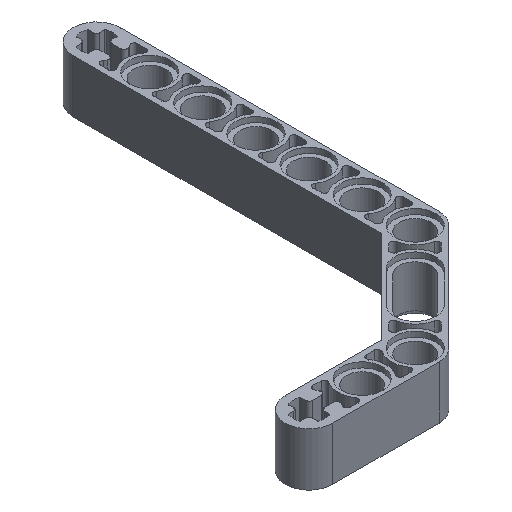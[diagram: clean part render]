
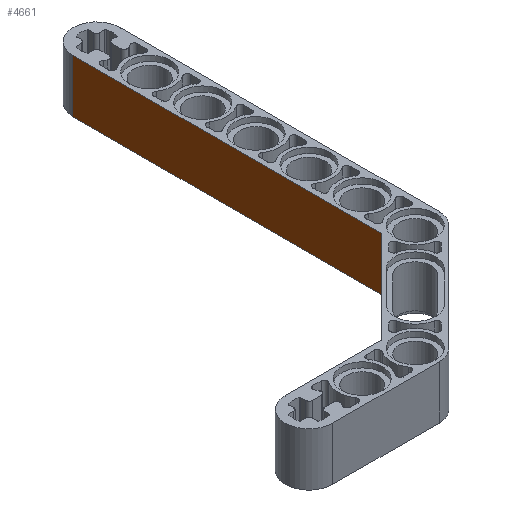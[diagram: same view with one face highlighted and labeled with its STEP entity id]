
A CAD part, isometric view. The second image highlights one B-rep face of the part: STEP entity #4661.
In plain terms, the highlighted planar face has unit normal (-1, 0, 0).
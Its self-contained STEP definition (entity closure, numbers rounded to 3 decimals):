
#50=PLANE('',#5212);
#231=LINE('',#7574,#573);
#262=LINE('',#7779,#604);
#299=LINE('',#7974,#641);
#300=LINE('',#7976,#642);
#573=VECTOR('',#6012,1000.);
#604=VECTOR('',#6187,1000.);
#641=VECTOR('',#6360,1000.);
#642=VECTOR('',#6363,1000.);
#1452=ORIENTED_EDGE('',*,*,#2529,.F.);
#1453=ORIENTED_EDGE('',*,*,#2627,.F.);
#1454=ORIENTED_EDGE('',*,*,#2427,.T.);
#1455=ORIENTED_EDGE('',*,*,#2628,.T.);
#2427=EDGE_CURVE('',#3054,#3053,#231,.T.);
#2529=EDGE_CURVE('',#3155,#3156,#262,.T.);
#2627=EDGE_CURVE('',#3054,#3155,#299,.T.);
#2628=EDGE_CURVE('',#3053,#3156,#300,.T.);
#3053=VERTEX_POINT('',#7573);
#3054=VERTEX_POINT('',#7575);
#3155=VERTEX_POINT('',#7778);
#3156=VERTEX_POINT('',#7780);
#3817=EDGE_LOOP('',(#1452,#1453,#1454,#1455));
#4171=FACE_BOUND('',#3817,.T.);
#4661=ADVANCED_FACE('',(#4171),#50,.T.);
#5212=AXIS2_PLACEMENT_3D('',#7975,#6361,#6362);
#6012=DIRECTION('',(0.,1.,0.));
#6187=DIRECTION('',(0.,1.,0.));
#6360=DIRECTION('',(0.,0.,-1.));
#6361=DIRECTION('',(-1.,0.,0.));
#6362=DIRECTION('',(0.,0.,1.));
#6363=DIRECTION('',(0.,0.,-1.));
#7573=CARTESIAN_POINT('',(27.859,64.,8.));
#7574=CARTESIAN_POINT('',(27.859,64.,8.));
#7575=CARTESIAN_POINT('',(27.859,17.491,8.));
#7778=CARTESIAN_POINT('',(27.859,17.491,0.));
#7779=CARTESIAN_POINT('',(27.859,64.,0.));
#7780=CARTESIAN_POINT('',(27.859,64.,0.));
#7974=CARTESIAN_POINT('',(27.859,17.491,8.));
#7975=CARTESIAN_POINT('',(27.859,64.,8.));
#7976=CARTESIAN_POINT('',(27.859,64.,8.));
